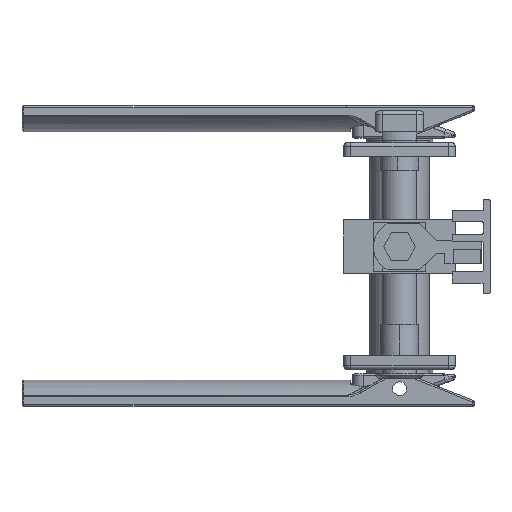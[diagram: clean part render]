
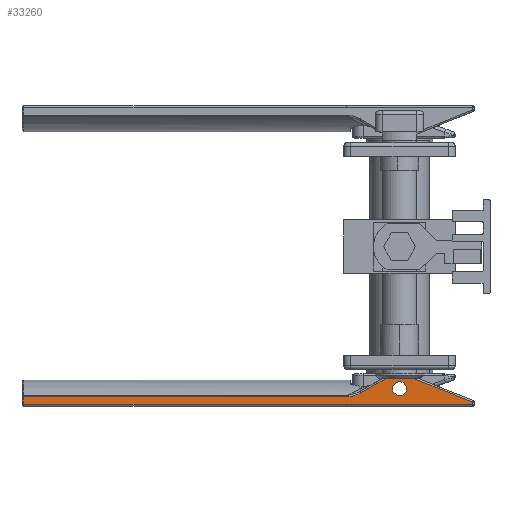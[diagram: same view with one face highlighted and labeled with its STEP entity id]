
A CAD part, front view. The second image highlights one B-rep face of the part: STEP entity #33260.
In plain terms, the highlighted planar face has unit normal (0, -1, 0) as drawn and (-1, 0, 0) by its records, which use the part's own axes.
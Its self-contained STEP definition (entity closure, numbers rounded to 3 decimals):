
#55 = CARTESIAN_POINT ( 'NONE',  ( -15., 2.263, 8.569 ) ) ;
#228 = CARTESIAN_POINT ( 'NONE',  ( -15., -108.5, 11.84 ) ) ;
#456 = AXIS2_PLACEMENT_3D ( 'NONE', #55, #7512, #25239 ) ;
#996 = CARTESIAN_POINT ( 'NONE',  ( -15., 21., 14.069 ) ) ;
#1042 = CARTESIAN_POINT ( 'NONE',  ( -15., 21., 11.84 ) ) ;
#1459 = VERTEX_POINT ( 'NONE', #2723 ) ;
#1753 = CIRCLE ( 'NONE', #27212, 2. ) ;
#1847 = EDGE_CURVE ( 'NONE', #9117, #33201, #5410, .T. ) ;
#1855 = ORIENTED_EDGE ( 'NONE', *, *, #14727, .T. ) ;
#2031 = EDGE_LOOP ( 'NONE', ( #23921, #8088 ) ) ;
#2067 = CIRCLE ( 'NONE', #456, 2.5 ) ;
#2299 = EDGE_CURVE ( 'NONE', #32079, #33516, #18437, .T. ) ;
#2508 = VECTOR ( 'NONE', #3418, 1000. ) ;
#2656 = AXIS2_PLACEMENT_3D ( 'NONE', #228, #20583, #30960 ) ;
#2723 = CARTESIAN_POINT ( 'NONE',  ( -15., -14.883, 11.84 ) ) ;
#2933 = FACE_OUTER_BOUND ( 'NONE', #3861, .T. ) ;
#3418 = DIRECTION ( 'NONE',  ( 0., 0., -1. ) ) ;
#3823 = CARTESIAN_POINT ( 'NONE',  ( -15., -108., 14.069 ) ) ;
#3861 = EDGE_LOOP ( 'NONE', ( #10009, #12482, #23857, #17637, #25207, #8469, #1855, #22022, #28525, #25502, #12923 ) ) ;
#3937 = CARTESIAN_POINT ( 'NONE',  ( -15., -11.179, 10.802 ) ) ;
#4185 = CARTESIAN_POINT ( 'NONE',  ( -15., -84.619, 53.202 ) ) ;
#4277 = EDGE_CURVE ( 'NONE', #5792, #31051, #14687, .T. ) ;
#4556 = CARTESIAN_POINT ( 'NONE',  ( -15., 0., 9.55 ) ) ;
#5069 = CARTESIAN_POINT ( 'NONE',  ( -15., 3.199, 6.251 ) ) ;
#5410 = LINE ( 'NONE', #5069, #26721 ) ;
#5792 = VERTEX_POINT ( 'NONE', #11304 ) ;
#6114 = LINE ( 'NONE', #1042, #2508 ) ;
#6569 = EDGE_CURVE ( 'NONE', #1459, #31051, #25042, .T. ) ;
#7051 = VECTOR ( 'NONE', #17283, 1000. ) ;
#7512 = DIRECTION ( 'NONE',  ( -1., 0., 0. ) ) ;
#7514 = LINE ( 'NONE', #30143, #19160 ) ;
#8088 = ORIENTED_EDGE ( 'NONE', *, *, #32140, .T. ) ;
#8309 = CARTESIAN_POINT ( 'NONE',  ( -15., 0., 7.55 ) ) ;
#8469 = ORIENTED_EDGE ( 'NONE', *, *, #1847, .T. ) ;
#8514 = EDGE_CURVE ( 'NONE', #18840, #32079, #7514, .T. ) ;
#8982 = CARTESIAN_POINT ( 'NONE',  ( -15., 0., 9.55 ) ) ;
#9117 = VERTEX_POINT ( 'NONE', #23282 ) ;
#9461 = DIRECTION ( 'NONE',  ( 0., 0., -1. ) ) ;
#9502 = VECTOR ( 'NONE', #11598, 1000. ) ;
#9680 = CARTESIAN_POINT ( 'NONE',  ( -15., -14.232, 11.813 ) ) ;
#10009 = ORIENTED_EDGE ( 'NONE', *, *, #23251, .F. ) ;
#11304 = CARTESIAN_POINT ( 'NONE',  ( -15., -3.562, 6.404 ) ) ;
#11598 = DIRECTION ( 'NONE',  ( 0., 0., 1. ) ) ;
#11667 = DIRECTION ( 'NONE',  ( 1., 0., 0. ) ) ;
#11903 = CARTESIAN_POINT ( 'NONE',  ( -15., -13.588, 11.716 ) ) ;
#12352 = DIRECTION ( 'NONE',  ( 1., 0., 0. ) ) ;
#12356 = EDGE_CURVE ( 'NONE', #23321, #5792, #24177, .T. ) ;
#12395 = EDGE_CURVE ( 'NONE', #27081, #18840, #27099, .T. ) ;
#12402 = CARTESIAN_POINT ( 'NONE',  ( -15., -13.269, 11.645 ) ) ;
#12482 = ORIENTED_EDGE ( 'NONE', *, *, #12395, .T. ) ;
#12923 = ORIENTED_EDGE ( 'NONE', *, *, #6569, .F. ) ;
#13011 = DIRECTION ( 'NONE',  ( 0., 1., 0. ) ) ;
#13823 = CARTESIAN_POINT ( 'NONE',  ( -15., -108., 14.069 ) ) ;
#14261 = VECTOR ( 'NONE', #13011, 1000. ) ;
#14297 = VERTEX_POINT ( 'NONE', #27584 ) ;
#14687 = LINE ( 'NONE', #4185, #32877 ) ;
#14727 = EDGE_CURVE ( 'NONE', #33201, #14297, #2067, .T. ) ;
#16832 = CARTESIAN_POINT ( 'NONE',  ( -15., -14.556, 11.84 ) ) ;
#16940 = CARTESIAN_POINT ( 'NONE',  ( -15., -15.24, 14.069 ) ) ;
#17221 = DIRECTION ( 'NONE',  ( 0., 1., 0. ) ) ;
#17283 = DIRECTION ( 'NONE',  ( 0., 1., 0. ) ) ;
#17622 = CARTESIAN_POINT ( 'NONE',  ( -15., 0., 11.55 ) ) ;
#17637 = ORIENTED_EDGE ( 'NONE', *, *, #2299, .T. ) ;
#18300 = CARTESIAN_POINT ( 'NONE',  ( -15., -11.179, 10.802 ) ) ;
#18437 = LINE ( 'NONE', #26121, #14261 ) ;
#18535 = PLANE ( 'NONE',  #2656 ) ;
#18840 = VERTEX_POINT ( 'NONE', #13823 ) ;
#19160 = VECTOR ( 'NONE', #17221, 1000. ) ;
#19414 = AXIS2_PLACEMENT_3D ( 'NONE', #4556, #12352, #33097 ) ;
#19740 = CARTESIAN_POINT ( 'NONE',  ( -15., 3.199, 6.251 ) ) ;
#20037 = CARTESIAN_POINT ( 'NONE',  ( -15., -12.339, 11.378 ) ) ;
#20507 = CIRCLE ( 'NONE', #19414, 2. ) ;
#20583 = DIRECTION ( 'NONE',  ( -1., 0., 0. ) ) ;
#21783 = EDGE_CURVE ( 'NONE', #14297, #23321, #22219, .T. ) ;
#21887 = VERTEX_POINT ( 'NONE', #17622 ) ;
#22013 = DIRECTION ( 'NONE',  ( 0., -0.866, 0.5 ) ) ;
#22022 = ORIENTED_EDGE ( 'NONE', *, *, #21783, .T. ) ;
#22156 = DIRECTION ( 'NONE',  ( -1., 0., 0. ) ) ;
#22219 = LINE ( 'NONE', #24452, #24673 ) ;
#22273 = CARTESIAN_POINT ( 'NONE',  ( -15., -11.745, 11.128 ) ) ;
#22619 = CARTESIAN_POINT ( 'NONE',  ( -15., -14.883, 11.84 ) ) ;
#23251 = EDGE_CURVE ( 'NONE', #27081, #1459, #30205, .T. ) ;
#23282 = CARTESIAN_POINT ( 'NONE',  ( -15., 21., 13.443 ) ) ;
#23321 = VERTEX_POINT ( 'NONE', #31013 ) ;
#23857 = ORIENTED_EDGE ( 'NONE', *, *, #8514, .T. ) ;
#23921 = ORIENTED_EDGE ( 'NONE', *, *, #26317, .T. ) ;
#24110 = DIRECTION ( 'NONE',  ( 0., -1., 0. ) ) ;
#24177 = CIRCLE ( 'NONE', #26887, 2.5 ) ;
#24208 = CARTESIAN_POINT ( 'NONE',  ( -15., -108., 11.84 ) ) ;
#24452 = CARTESIAN_POINT ( 'NONE',  ( -15., -108.5, 6.069 ) ) ;
#24673 = VECTOR ( 'NONE', #24110, 1000. ) ;
#25042 = B_SPLINE_CURVE_WITH_KNOTS ( 'NONE', 3,
 ( #22619, #16832, #9680, #11903, #12402, #20037, #22273, #3937 ),
 .UNSPECIFIED., .F., .F.,
 ( 4, 2, 2, 4 ),
 ( 0., 0.001, 0.002, 0.004 ),
 .UNSPECIFIED. ) ;
#25082 = CARTESIAN_POINT ( 'NONE',  ( -15., -2.312, 8.569 ) ) ;
#25207 = ORIENTED_EDGE ( 'NONE', *, *, #31299, .T. ) ;
#25239 = DIRECTION ( 'NONE',  ( 0., 0., 1. ) ) ;
#25502 = ORIENTED_EDGE ( 'NONE', *, *, #4277, .T. ) ;
#26121 = CARTESIAN_POINT ( 'NONE',  ( -15., -108.5, 14.069 ) ) ;
#26138 = DIRECTION ( 'NONE',  ( 0., -0.927, -0.375 ) ) ;
#26224 = FACE_BOUND ( 'NONE', #2031, .T. ) ;
#26317 = EDGE_CURVE ( 'NONE', #32631, #21887, #1753, .T. ) ;
#26721 = VECTOR ( 'NONE', #26138, 1000. ) ;
#26887 = AXIS2_PLACEMENT_3D ( 'NONE', #25082, #22156, #26928 ) ;
#26928 = DIRECTION ( 'NONE',  ( 0., 0., 1. ) ) ;
#27081 = VERTEX_POINT ( 'NONE', #24208 ) ;
#27099 = LINE ( 'NONE', #3823, #9502 ) ;
#27212 = AXIS2_PLACEMENT_3D ( 'NONE', #8982, #11667, #9461 ) ;
#27584 = CARTESIAN_POINT ( 'NONE',  ( -15., 2.263, 6.069 ) ) ;
#28525 = ORIENTED_EDGE ( 'NONE', *, *, #12356, .T. ) ;
#30143 = CARTESIAN_POINT ( 'NONE',  ( -15., -108.5, 14.069 ) ) ;
#30205 = LINE ( 'NONE', #33402, #7051 ) ;
#30960 = DIRECTION ( 'NONE',  ( 0., 0., 1. ) ) ;
#31013 = CARTESIAN_POINT ( 'NONE',  ( -15., -2.312, 6.069 ) ) ;
#31051 = VERTEX_POINT ( 'NONE', #18300 ) ;
#31299 = EDGE_CURVE ( 'NONE', #33516, #9117, #6114, .T. ) ;
#32079 = VERTEX_POINT ( 'NONE', #16940 ) ;
#32140 = EDGE_CURVE ( 'NONE', #21887, #32631, #20507, .T. ) ;
#32631 = VERTEX_POINT ( 'NONE', #8309 ) ;
#32877 = VECTOR ( 'NONE', #22013, 1000. ) ;
#33097 = DIRECTION ( 'NONE',  ( 0., 0., -1. ) ) ;
#33201 = VERTEX_POINT ( 'NONE', #19740 ) ;
#33260 = ADVANCED_FACE ( 'NONE', ( #2933, #26224 ), #18535, .T. ) ;
#33402 = CARTESIAN_POINT ( 'NONE',  ( -15., -108.5, 11.84 ) ) ;
#33516 = VERTEX_POINT ( 'NONE', #996 ) ;
